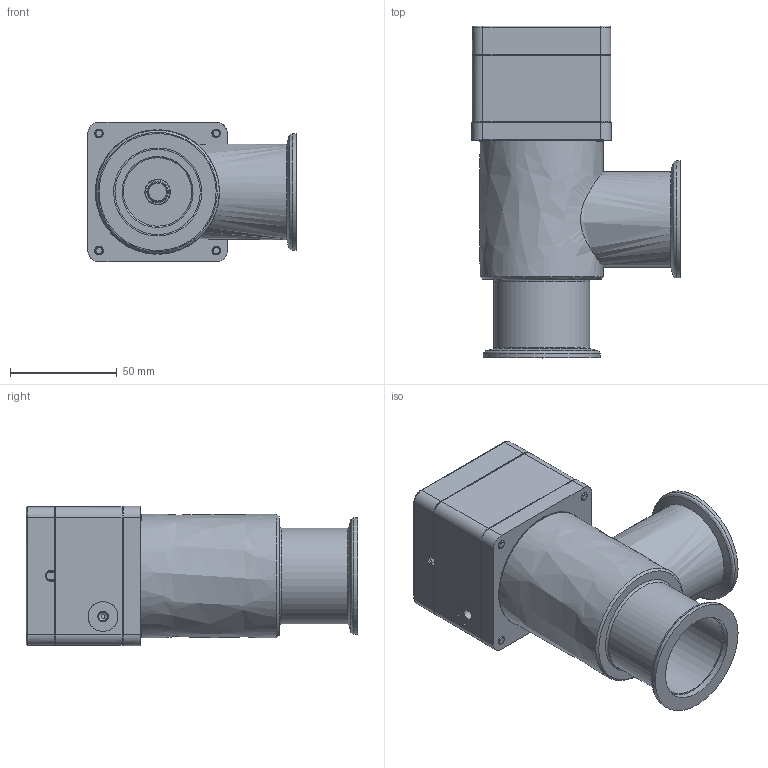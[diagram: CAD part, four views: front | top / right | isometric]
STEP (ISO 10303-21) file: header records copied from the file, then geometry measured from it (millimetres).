
FILE_DESCRIPTION((''),'2;1');
FILE_NAME('C:\TEMP\IDEAS\318237.stp','2006-09-19T15:55:59',('User'),( 'SDRC'),'I-DEAS Master Series 9','UNIX','Yes');
FILE_SCHEMA(('CONFIG_CONTROL_DESIGN'));
Length unit declared in the file: millimetre
Assembly tree (14 placements, depth 0):
Bounding box: 97.7 x 155.7 x 65.4 mm (x, y, z)
Volume: 151265 mm3; surface area: 109409 mm2
Topology: 12 solids, 12 shells, 484 faces, 1229 edges, 798 vertices
Faces by surface type: bspline 484
Entity records: 16153 total; most frequent: CARTESIAN_POINT 8049, ORIENTED_EDGE 2212, EDGE_CURVE 1106, VERTEX_POINT 717, EDGE_LOOP 481, B_SPLINE_CURVE_WITH_KNOTS 473, FACE_OUTER_BOUND 427, ADVANCED_FACE 427
